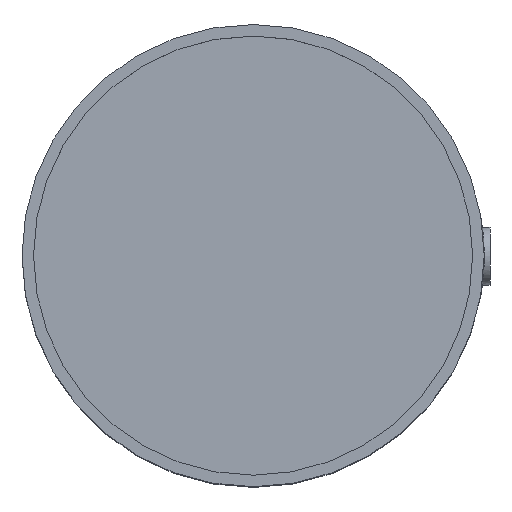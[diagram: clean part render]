
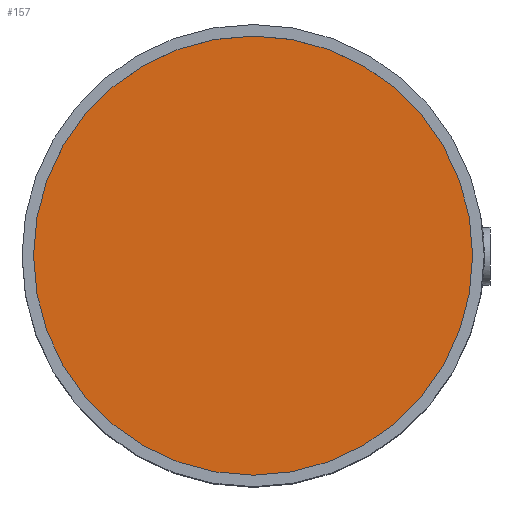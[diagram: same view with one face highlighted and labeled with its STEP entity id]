
A CAD part, top view. The second image highlights one B-rep face of the part: STEP entity #157.
In plain terms, the highlighted planar face has unit normal (0, 0, 1).
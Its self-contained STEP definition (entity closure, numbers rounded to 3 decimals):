
#18=PLANE('',#185);
#41=FACE_OUTER_BOUND('',#61,.T.);
#61=EDGE_LOOP('',(#120));
#77=CIRCLE('',#186,38.);
#89=VERTEX_POINT('',#303);
#101=EDGE_CURVE('',#89,#89,#77,.T.);
#120=ORIENTED_EDGE('',*,*,#101,.F.);
#157=ADVANCED_FACE('',(#41),#18,.T.);
#185=AXIS2_PLACEMENT_3D('',#302,#226,#227);
#186=AXIS2_PLACEMENT_3D('',#304,#228,#229);
#226=DIRECTION('center_axis',(0.,0.,1.));
#227=DIRECTION('ref_axis',(1.,0.,0.));
#228=DIRECTION('center_axis',(0.,0.,-1.));
#229=DIRECTION('ref_axis',(-1.,0.,0.));
#302=CARTESIAN_POINT('Origin',(0.,0.,-4.));
#303=CARTESIAN_POINT('',(-38.,0.,-4.));
#304=CARTESIAN_POINT('Origin',(0.,0.,-4.));
